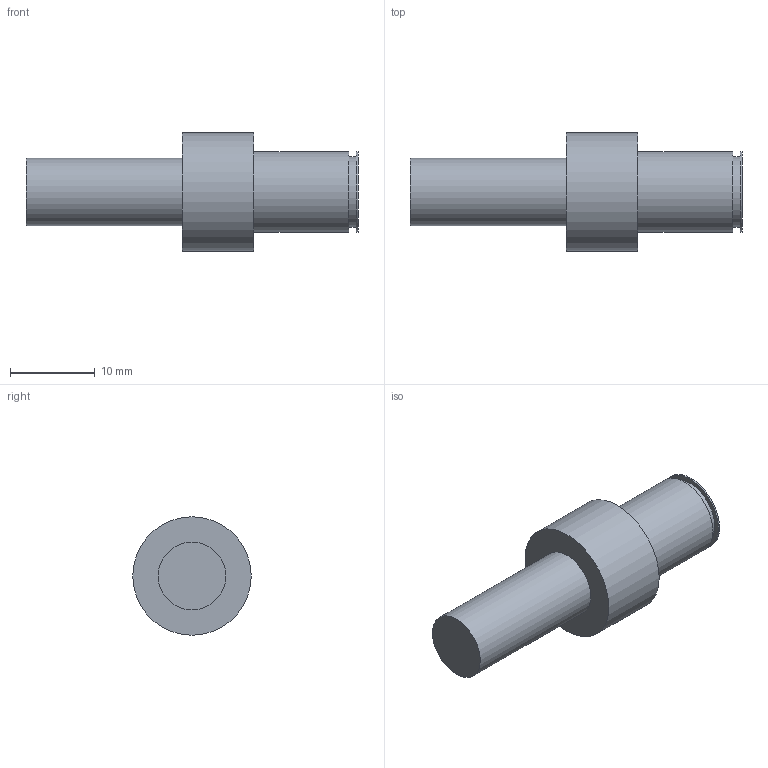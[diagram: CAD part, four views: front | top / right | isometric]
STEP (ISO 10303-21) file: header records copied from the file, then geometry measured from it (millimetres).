
FILE_DESCRIPTION(('Open CASCADE Model'),'2;1');
FILE_NAME('Open CASCADE Shape Model','2026-10-18T22:58:50',('Author'),( 'Open CASCADE'),'Open CASCADE STEP processor 7.9','Open CASCADE 7.9' ,'Unknown');
FILE_SCHEMA(('AUTOMOTIVE_DESIGN { 1 0 10303 214 1 1 1 1 }'));
Length unit declared in the file: millimetre
Products named in the file (1): Open CASCADE STEP translator 7.9 45
Bounding box: 39.27 x 14 x 14 mm (x, y, z)
Volume: 3092.7 mm3; surface area: 1543.2 mm2
Topology: 1 solids, 1 shells, 11 faces, 15 edges, 10 vertices
Faces by surface type: plane 6, cylinder 5
Full cylindrical faces by diameter (mm): 8 x1, 8.33 x1, 9.53 x2, 14 x1
Entity records: 444 total; most frequent: DIRECTION 79, CARTESIAN_POINT 67, ORIENTED_EDGE 30, PCURVE 30, DEFINITIONAL_REPRESENTATION 30, LINE 25, VECTOR 25, AXIS2_PLACEMENT_3D 22
